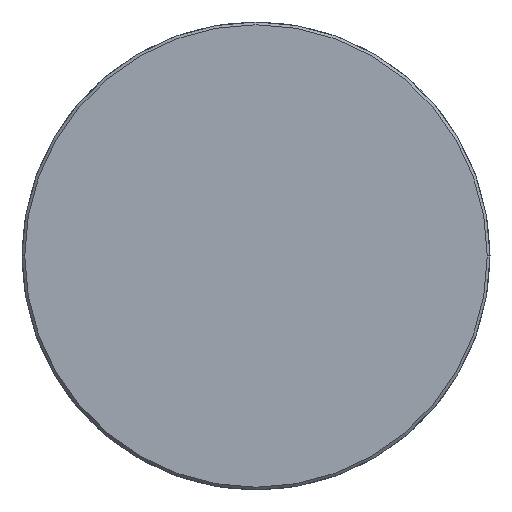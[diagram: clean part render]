
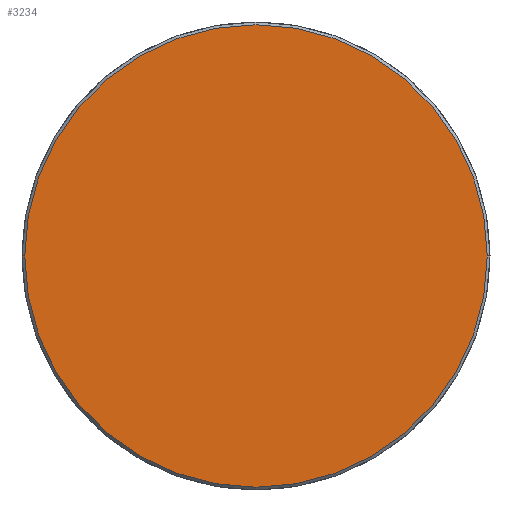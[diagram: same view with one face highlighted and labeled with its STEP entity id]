
A CAD part, left-side view. The second image highlights one B-rep face of the part: STEP entity #3234.
In plain terms, the highlighted planar face has unit normal (-1, 0, 0).
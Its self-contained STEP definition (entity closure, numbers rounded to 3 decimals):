
#362 = PLANE ( 'NONE',  #3886 ) ;
#658 = CARTESIAN_POINT ( 'NONE',  ( -209.8, -84.502, 84.502 ) ) ;
#673 = DIRECTION ( 'NONE',  ( 1., 0., 0. ) ) ;
#1269 = ORIENTED_EDGE ( 'NONE', *, *, #2808, .T. ) ;
#1295 = EDGE_LOOP ( 'NONE', ( #3031, #1269 ) ) ;
#1307 = DIRECTION ( 'NONE',  ( 0., 1., 0. ) ) ;
#1564 = VERTEX_POINT ( 'NONE', #3958 ) ;
#1623 = CARTESIAN_POINT ( 'NONE',  ( -209.8, 0., 0. ) ) ;
#1993 = VERTEX_POINT ( 'NONE', #2818 ) ;
#2264 = FACE_OUTER_BOUND ( 'NONE', #1295, .T. ) ;
#2308 = DIRECTION ( 'NONE',  ( -1., 0., 0. ) ) ;
#2390 = AXIS2_PLACEMENT_3D ( 'NONE', #1623, #3857, #1307 ) ;
#2808 = EDGE_CURVE ( 'NONE', #1564, #1993, #3056, .T. ) ;
#2818 = CARTESIAN_POINT ( 'NONE',  ( -209.8, 83.5, 0. ) ) ;
#2959 = CARTESIAN_POINT ( 'NONE',  ( -209.8, 0., 0. ) ) ;
#2975 = DIRECTION ( 'NONE',  ( 0., 1., 0. ) ) ;
#3031 = ORIENTED_EDGE ( 'NONE', *, *, #3241, .T. ) ;
#3056 = CIRCLE ( 'NONE', #3313, 83.5 ) ;
#3207 = DIRECTION ( 'NONE',  ( 0., 0., -1. ) ) ;
#3234 = ADVANCED_FACE ( 'NONE', ( #2264 ), #362, .F. ) ;
#3241 = EDGE_CURVE ( 'NONE', #1993, #1564, #3918, .T. ) ;
#3313 = AXIS2_PLACEMENT_3D ( 'NONE', #2959, #2308, #2975 ) ;
#3857 = DIRECTION ( 'NONE',  ( -1., 0., 0. ) ) ;
#3886 = AXIS2_PLACEMENT_3D ( 'NONE', #658, #673, #3207 ) ;
#3918 = CIRCLE ( 'NONE', #2390, 83.5 ) ;
#3958 = CARTESIAN_POINT ( 'NONE',  ( -209.8, -83.5, 0. ) ) ;
